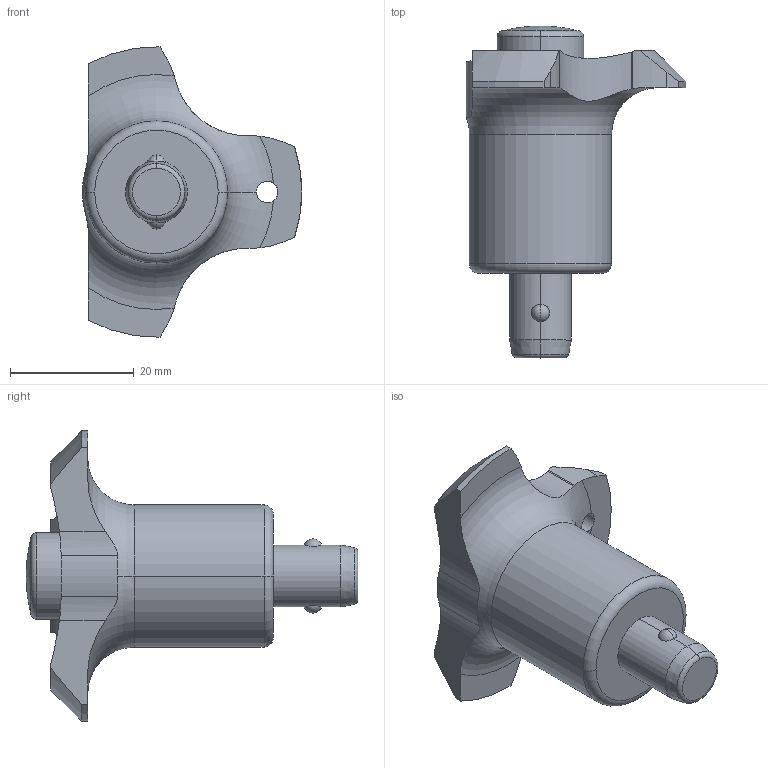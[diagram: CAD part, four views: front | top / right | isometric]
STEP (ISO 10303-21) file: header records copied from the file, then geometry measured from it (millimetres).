
FILE_DESCRIPTION (( 'STEP AP203' ), '1' );
FILE_NAME ('33180.W0030.step', '2025-01-06T11:15:02', ( '' ), ( '' ), 'SwSTEP 2.0', 'SolidWorks 2019', '' );
FILE_SCHEMA (( 'CONFIG_CONTROL_DESIGN' ));
Length unit declared in the file: millimetre
Products named in the file (4): 33180.W0030; Part2_33180.W0030; Part3_33180.W0030; Part1_33180.W0030
Assembly tree (3 placements, depth 2):
  33180.W0030
    Part1_33180.W0030
    Part2_33180.W0030
    Part3_33180.W0030
Bounding box: 35.5 x 53.7 x 46.99 mm (x, y, z)
Volume: 17656.7 mm3; surface area: 8264.5 mm2
Topology: 3 solids, 3 shells, 68 faces, 177 edges, 113 vertices
Faces by surface type: cylinder 26, plane 20, torus 8, sphere 8, cone 6
Entity records: 2835 total; most frequent: CARTESIAN_POINT 754, DIRECTION 369, ORIENTED_EDGE 354, EDGE_CURVE 177, AXIS2_PLACEMENT_3D 160, VERTEX_POINT 113, CIRCLE 86, EDGE_LOOP 70
